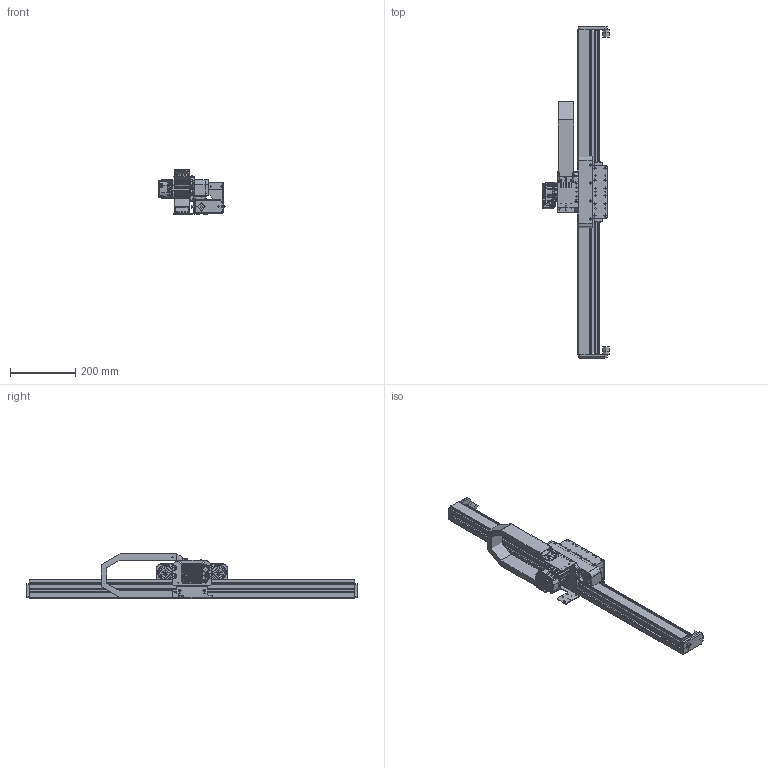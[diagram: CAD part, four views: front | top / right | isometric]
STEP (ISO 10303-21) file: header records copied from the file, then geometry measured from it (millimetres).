
FILE_DESCRIPTION( ( '' ), ' ' );
FILE_NAME( '/vol/tmp/translate-8070356321825378846/5c7ea7b48114d517143094ec.step', '2019-03-05T16:45:46', ( '' ), ( '' ), ' ', ' ', ' ' );
FILE_SCHEMA( ( 'AUTOMOTIVE_DESIGN { 1 0 10303 214 1 1 1 1 }' ) );
Length unit declared in the file: metre
Products named in the file (89): RAIL FASTENERS <1>; 20mm BEARING RAIL CAP; 102684-001 BOSCH 10mm T-BLOCK M5; 100001-8065 M5-.80 X 25 ALLOY SHCS; RAIL FASTENERS <13>; RAIL FASTENERS <9>; RAIL FASTENERS <11>; TRAY FASTENERS <1>; #7576; #7584; TRAY FASTENERS <5>; RAIL FASTENERS <10>; RAIL FASTENERS <12>; RAIL FASTENERS <8>; RAIL FASTENERS <5>; RAIL FASTENERS <2>; RAIL FASTENERS <17>; RAIL FASTENERS <4>; RAIL FASTENERS <7>; RAIL FASTENERS <14>; TRAY FASTENERS <2>; RAIL FASTENERS <15>; RAIL FASTENERS <6>; RAIL FASTENERS <3>; TRAY FASTENERS <3>; RAIL FASTENERS <16>; TRAY FASTENERS <4>; RAIL <1>; 106888-001 20mm RAIL COVER; 102732-990 20mm STANDARD GUIDE RAIL; CPM-23XX & PINION <1>; 100013-008 M4 X 6 SS SET SCREW; GENERIC CPM 232X; 104885-002 SBL-M PINION GEAR .375 BORE; 104587-001 SBL-M DYNAMIC BEARING ASSEMBLY <2>; 102638-005 5202 SHIELDED DOUBLE ROW BALL BEARING; 103126-001 SBL-M BEARING SHAFT; TRAY <1>; 102610-005 VHB TAPE 1-1/4 WIDE; 102656-1000 SBL-M BELT TRAY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
Assembly tree (211 placements, depth 5):
  Assem1
    102977-001 LINKS
    CPM-23XX MOUNT <1>
      100003-005 M6 SS F/W  x4
      100001-141 M6-1.0 X 18 SS  SHCS  x4
      100011-8027 M5-.80 X 14 ALLOY FHCS  x4
      100007-016 M5-.80 SS HEX NUT  x4
      105432-019 SBL-M NEMA 23 MOTOR MOUNT
      CPM-23XX & PINION <1>
        100013-008 M4 X 6 SS SET SCREW  x2
        GENERIC CPM 232X
        104885-002 SBL-M PINION GEAR .375 BORE
    1000 CHASSIS <1>
      102897-1000 45-SERIES PROFILE 45X45H
      RAIL <1>
        106888-001 20mm RAIL COVER
        102732-990 20mm STANDARD GUIDE RAIL
        RAIL FASTENERS <7>
          102684-001 BOSCH 10mm T-BLOCK M5
          100001-8065 M5-.80 X 25 ALLOY SHCS
          20mm BEARING RAIL CAP
        RAIL FASTENERS <5>
          100001-8065 M5-.80 X 25 ALLOY SHCS
          102684-001 BOSCH 10mm T-BLOCK M5
          20mm BEARING RAIL CAP
        RAIL FASTENERS <16>
          20mm BEARING RAIL CAP
          102684-001 BOSCH 10mm T-BLOCK M5
          100001-8065 M5-.80 X 25 ALLOY SHCS
        RAIL FASTENERS <14>
          102684-001 BOSCH 10mm T-BLOCK M5
          20mm BEARING RAIL CAP
          100001-8065 M5-.80 X 25 ALLOY SHCS
        RAIL FASTENERS <15>
          102684-001 BOSCH 10mm T-BLOCK M5
          20mm BEARING RAIL CAP
          100001-8065 M5-.80 X 25 ALLOY SHCS
        RAIL FASTENERS <8>
          20mm BEARING RAIL CAP
          102684-001 BOSCH 10mm T-BLOCK M5
          100001-8065 M5-.80 X 25 ALLOY SHCS
        RAIL FASTENERS <13>
          102684-001 BOSCH 10mm T-BLOCK M5
          20mm BEARING RAIL CAP
          100001-8065 M5-.80 X 25 ALLOY SHCS
        RAIL FASTENERS <1>
          20mm BEARING RAIL CAP
          102684-001 BOSCH 10mm T-BLOCK M5
          100001-8065 M5-.80 X 25 ALLOY SHCS
        RAIL FASTENERS <12>
          100001-8065 M5-.80 X 25 ALLOY SHCS
          102684-001 BOSCH 10mm T-BLOCK M5
          20mm BEARING RAIL CAP
        RAIL FASTENERS <2>
          20mm BEARING RAIL CAP
          102684-001 BOSCH 10mm T-BLOCK M5
          100001-8065 M5-.80 X 25 ALLOY SHCS
        RAIL FASTENERS <6>
          100001-8065 M5-.80 X 25 ALLOY SHCS
          102684-001 BOSCH 10mm T-BLOCK M5
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Bounding box: 204.15 x 1019.05 x 135.99 mm (x, y, z)
Topology: 196 solids, 203 shells, 8184 faces, 20480 edges, 12929 vertices
Faces by surface type: plane 3179, cylinder 2252, bspline 1047, torus 886, cone 725, sphere 53, extrusion 42
Full cylindrical faces by diameter (mm): 1.587 x1, 1.6 x1, 1.846 x1, 2 x1, 2.096 x1, 2.44 x114, 2.5 x24, 2.54 x2, 2.6 x4, 2.66 x4, 3 x12, 3.048 x4, 3.09 x4, 3.175 x2, 3.2 x8, 3.3 x6, 3.4 x2, 3.454 x5, 4 x14, 4.166 x5, 4.2 x29, 4.216 x16, 4.5 x9, 4.8 x4, 5 x35, 5.004 x45, 5.105 x2, 5.156 x5, 5.2 x4, 5.5 x44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
Entity records: 322567 total; most frequent: CARTESIAN_POINT 126557, ORIENTED_EDGE 29992, DIRECTION 29680, EDGE_CURVE 14996, AXIS2_PLACEMENT_3D 11653, VERTEX_POINT 9842, EDGE_LOOP 7681, FACE_OUTER_BOUND 6905
